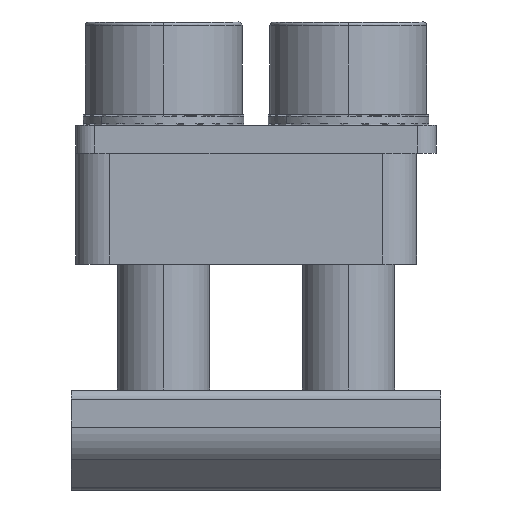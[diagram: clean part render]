
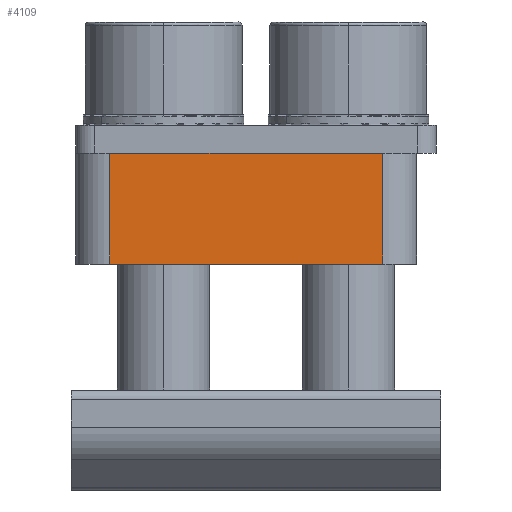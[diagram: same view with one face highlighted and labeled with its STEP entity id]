
A CAD part, front view. The second image highlights one B-rep face of the part: STEP entity #4109.
In plain terms, the highlighted planar face has unit normal (0, -1, 0).
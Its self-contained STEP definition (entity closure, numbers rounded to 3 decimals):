
#247 = EDGE_CURVE ( 'NONE', #18650, #6797, #8382, .T. ) ;
#1642 = DIRECTION ( 'NONE',  ( 0., 0., 1. ) ) ;
#2221 = CARTESIAN_POINT ( 'NONE',  ( -96.601, -28.976, 50.144 ) ) ;
#3094 = CARTESIAN_POINT ( 'NONE',  ( -103.985, -28.976, 50.144 ) ) ;
#3235 = LINE ( 'NONE', #13296, #12937 ) ;
#3421 = AXIS2_PLACEMENT_3D ( 'NONE', #3094, #16662, #5053 ) ;
#4109 = ADVANCED_FACE ( 'NONE', ( #8131 ), #16571, .T. ) ;
#4519 = EDGE_LOOP ( 'NONE', ( #23383, #5607, #20914, #6627 ) ) ;
#5053 = DIRECTION ( 'NONE',  ( 0., 0., -1. ) ) ;
#5607 = ORIENTED_EDGE ( 'NONE', *, *, #7194, .T. ) ;
#5938 = DIRECTION ( 'NONE',  ( 0., 0., -1. ) ) ;
#6627 = ORIENTED_EDGE ( 'NONE', *, *, #247, .T. ) ;
#6797 = VERTEX_POINT ( 'NONE', #19635 ) ;
#7194 = EDGE_CURVE ( 'NONE', #13650, #21809, #3235, .T. ) ;
#8131 = FACE_OUTER_BOUND ( 'NONE', #4519, .T. ) ;
#8382 = LINE ( 'NONE', #12584, #12918 ) ;
#9124 = LINE ( 'NONE', #2221, #13653 ) ;
#9390 = EDGE_CURVE ( 'NONE', #18650, #21809, #9124, .T. ) ;
#9591 = DIRECTION ( 'NONE',  ( 1., 0., 0. ) ) ;
#10334 = EDGE_CURVE ( 'NONE', #6797, #13650, #24937, .T. ) ;
#12584 = CARTESIAN_POINT ( 'NONE',  ( -103.985, -28.976, 47.144 ) ) ;
#12918 = VECTOR ( 'NONE', #5938, 1000. ) ;
#12937 = VECTOR ( 'NONE', #1642, 1000. ) ;
#13296 = CARTESIAN_POINT ( 'NONE',  ( -89.216, -28.976, 47.144 ) ) ;
#13650 = VERTEX_POINT ( 'NONE', #18535 ) ;
#13653 = VECTOR ( 'NONE', #17734, 1000. ) ;
#14759 = VECTOR ( 'NONE', #9591, 1000. ) ;
#16571 = PLANE ( 'NONE',  #3421 ) ;
#16662 = DIRECTION ( 'NONE',  ( 0., -1., 0. ) ) ;
#17734 = DIRECTION ( 'NONE',  ( 1., 0., 0. ) ) ;
#18355 = CARTESIAN_POINT ( 'NONE',  ( -89.216, -28.976, 50.144 ) ) ;
#18535 = CARTESIAN_POINT ( 'NONE',  ( -89.216, -28.976, 44.144 ) ) ;
#18650 = VERTEX_POINT ( 'NONE', #24409 ) ;
#19635 = CARTESIAN_POINT ( 'NONE',  ( -103.985, -28.976, 44.144 ) ) ;
#20914 = ORIENTED_EDGE ( 'NONE', *, *, #9390, .F. ) ;
#21809 = VERTEX_POINT ( 'NONE', #18355 ) ;
#23136 = CARTESIAN_POINT ( 'NONE',  ( -96.601, -28.976, 44.144 ) ) ;
#23383 = ORIENTED_EDGE ( 'NONE', *, *, #10334, .T. ) ;
#24409 = CARTESIAN_POINT ( 'NONE',  ( -103.985, -28.976, 50.144 ) ) ;
#24937 = LINE ( 'NONE', #23136, #14759 ) ;
